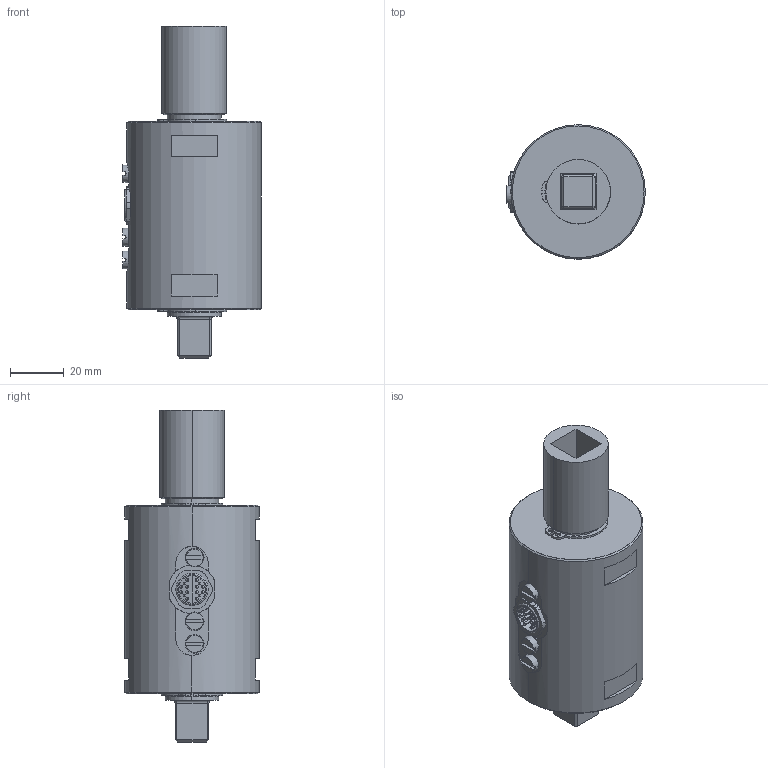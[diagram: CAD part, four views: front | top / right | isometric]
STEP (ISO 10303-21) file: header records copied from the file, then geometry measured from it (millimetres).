
FILE_DESCRIPTION(('STEP AP214'),'1');
FILE_NAME('burster_8646-5250_6plexnde967svqgyv7v2h5pvb.stp','2017-04-14T05:22:37',('TraceParts'),('TraceParts S.A.'),'Spatial InterOp 3D',' ',' ');
FILE_SCHEMA(('automotive_design'));
Length unit declared in the file: millimetre
Products named in the file (4): Volumenkörper1
Bounding box: 51.6 x 50 x 123.5 mm (x, y, z)
Volume: 152095.2 mm3; surface area: 22479.1 mm2
Topology: 4 solids, 4 shells, 300 faces, 772 edges, 480 vertices
Faces by surface type: cylinder 120, plane 86, torus 38, sphere 32, cone 24
Entity records: 12411 total; most frequent: CARTESIAN_POINT 2686, DIRECTION 1606, ORIENTED_EDGE 1476, EDGE_CURVE 738, AXIS2_PLACEMENT_3D 678, VERTEX_POINT 480, CIRCLE 362, EDGE_LOOP 340
